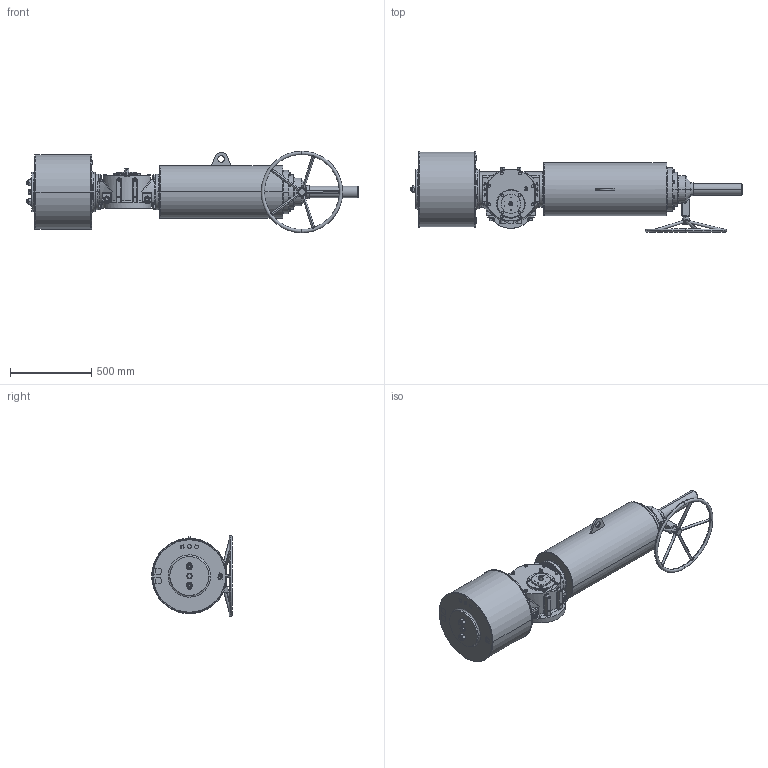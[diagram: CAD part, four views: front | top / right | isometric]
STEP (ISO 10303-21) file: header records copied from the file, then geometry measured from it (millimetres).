
FILE_DESCRIPTION (( 'STEP AP203' ), '1' );
FILE_NAME ('VTS3-450-SR-MG-FC.STEP', '2023-01-01T09:02:10', ( '' ), ( '' ), 'SwSTEP 2.0', 'SolidWorks 2020', '' );
FILE_SCHEMA (( 'CONFIG_CONTROL_DESIGN' ));
Length unit declared in the file: millimetre
Products named in the file (1): VTS3-450-SR-MG-FC
Bounding box: 2040.5 x 496 x 500 mm (x, y, z)
Volume: 147665381 mm3; surface area: 3298397.3 mm2
Topology: 61 solids, 64 shells, 2742 faces, 6849 edges, 4300 vertices
Faces by surface type: plane 1117, cylinder 850, cone 566, bspline 169, torus 40
Entity records: 102673 total; most frequent: CARTESIAN_POINT 38809, ORIENTED_EDGE 13472, DIRECTION 13212, EDGE_CURVE 6736, AXIS2_PLACEMENT_3D 5222, VERTEX_POINT 4300, EDGE_LOOP 3048, LINE 2768
